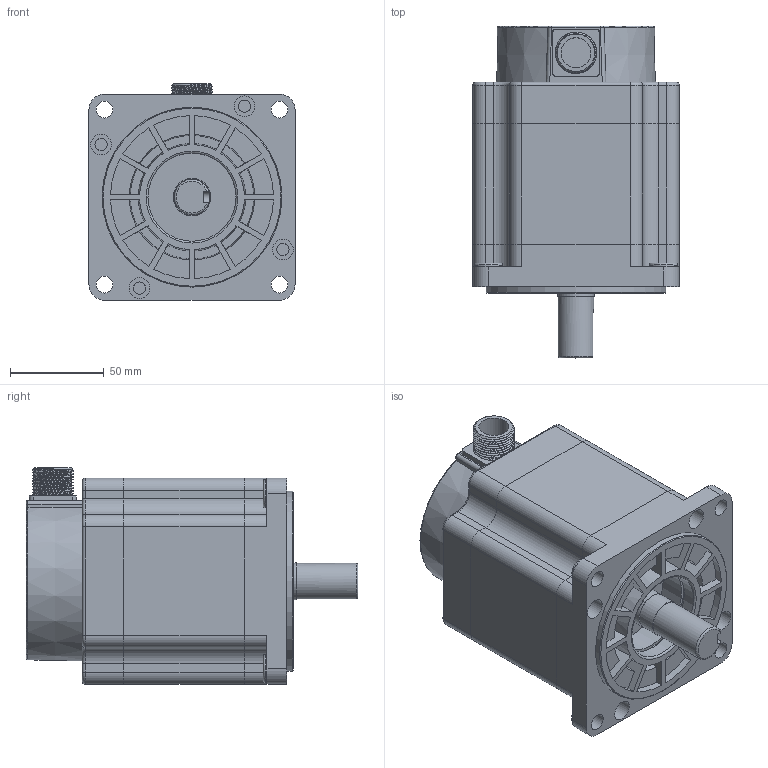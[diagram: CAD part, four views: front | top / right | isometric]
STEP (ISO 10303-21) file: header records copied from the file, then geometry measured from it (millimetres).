
FILE_DESCRIPTION(/* description */ (''),/* implementation_level */ '2;1');
FILE_NAME(/* name */ '110BYG350A(止口φ95).stp',/* time_stamp */ '2024-08-15T16:41:58+08:00',/* author */ (''),/* organization */ (''),/* preprocessor_version */ 'ST-DEVELOPER v18.1',/* originating_system */ 'SIEMENS PLM Software NX 2000',/* authorisation */ '');
FILE_SCHEMA (('AUTOMOTIVE_DESIGN { 1 0 10303 214 3 1 1 1 }'));
Length unit declared in the file: millimetre
Products named in the file (1): 925032A4A3696t5a
Bounding box: 110 x 177 x 115.5 mm (x, y, z)
Volume: 1216946.1 mm3; surface area: 158744.6 mm2
Topology: 5 solids, 5 shells, 413 faces, 1073 edges, 709 vertices
Faces by surface type: plane 198, cylinder 149, torus 31, cone 31, bspline 4
Full cylindrical faces by diameter (mm): 3 x4, 6 x4, 6.5 x8, 9 x4, 11 x4, 15 x4, 16 x1, 19 x1, 19.7 x1, 20 x2, 47 x2, 50 x1, 56 x1, 69 x1, 70 x1, 96 x1
Entity records: 15105 total; most frequent: CARTESIAN_POINT 5084, DIRECTION 2124, ORIENTED_EDGE 1988, EDGE_CURVE 994, AXIS2_PLACEMENT_3D 833, VERTEX_POINT 681, EDGE_LOOP 527, LINE 458
